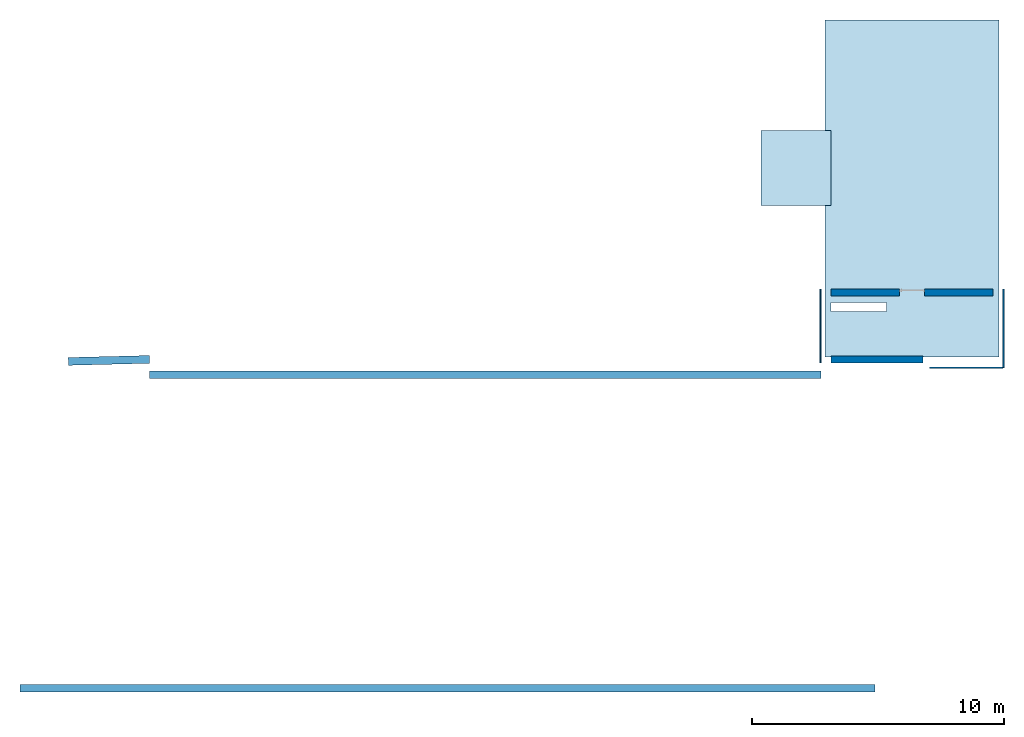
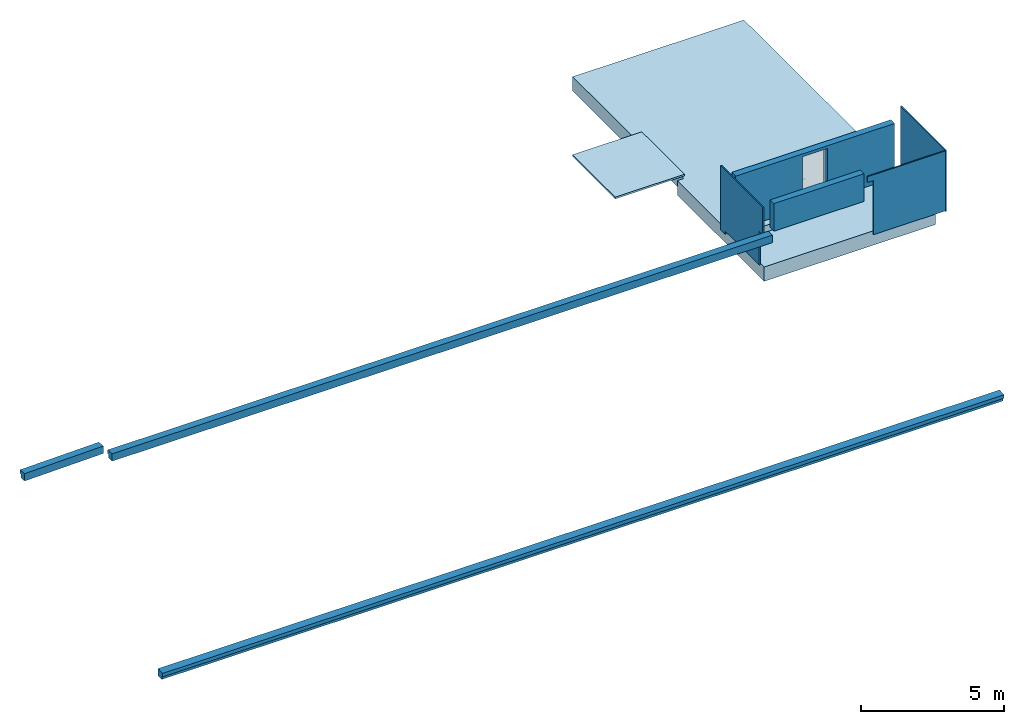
# One storey, part 1 of 2: 8 walls, 2 slabs, 3 openings, 2 elements without a shape of their own.
"""IFC2X3 building model written with IfcOpenShell, lengths in millimetres."""

import ifcopenshell
import ifcopenshell.guid

model = None  # the IFC model being written
_history = None  # IfcOwnerHistory: only IFC2X3 demands one
_inside = {}  # id of a spatial element -> (the spatial element, [elements in it])
_under = {}  # id of a project, library or spatial element -> (it, [spatial elements below it])
_declared = {}  # id of a project -> (the project, [libraries it declares])
_typed = {}  # id of a type object -> (the type object, [elements of that type])
_made_of = {}  # id of a material, layer set ... -> (it, [elements and type objects made of it])


def new_model(schema):
    """Start an empty IFC model of exactly this schema.

    Asked for "IFC4X3", IfcOpenShell would pick the latest addendum, in which some entities
    have other attributes; the version numbers below select the first issue.
    IFC2X3 requires an IfcOwnerHistory on every rooted entity: one is made here for all.
    """
    global model, _history
    if schema == "IFC4X3":
        model = ifcopenshell.file(schema_version=(4, 3, 0, 0))
    else:
        model = ifcopenshell.file(schema=schema)
    _inside.clear()
    _under.clear()
    _declared.clear()
    _typed.clear()
    _made_of.clear()
    _history = None
    if model.schema == "IFC2X3":
        org = make("IfcOrganization", Name="unknown")
        user = make(
            "IfcPersonAndOrganization",
            ThePerson=make("IfcPerson", FamilyName="unknown"),
            TheOrganization=org,
        )
        app = make(
            "IfcApplication",
            ApplicationDeveloper=org,
            Version="unknown",
            ApplicationFullName="unknown",
            ApplicationIdentifier="unknown",
        )
        _history = make(
            "IfcOwnerHistory",
            OwningUser=user,
            OwningApplication=app,
            ChangeAction="ADDED",
            CreationDate=0,
        )
    return model


def make(cls, **values):
    """One entity of the class cls with the attributes given. An attribute that is None is left unset."""
    return model.create_entity(
        cls, **{name: value for name, value in values.items() if value is not None}
    )


def entity(cls, *values):
    """Any entity or typed value of the class cls, its attributes in the order of the schema. None: left unset."""
    e = model.create_entity(cls)
    for i, value in enumerate(values):
        if value is not None:
            e[i] = value
    return e


def rooted(cls, **values):
    """An entity with a GlobalId (a new one), such as an element, a storey or a relation."""
    return make(cls, GlobalId=ifcopenshell.guid.new(), OwnerHistory=_history, **values)


def si_unit(unit_type, name, prefix=None):
    """IfcSIUnit, for example si_unit("LENGTHUNIT", "METRE", prefix="MILLI")."""
    return make("IfcSIUnit", UnitType=unit_type, Prefix=prefix, Name=name)


def converted_unit(unit_type, name, factor, base, dimensions=None, offset=None):
    """IfcConversionBasedUnit, such as the inch: factor (a typed value) times the base unit."""
    return make(
        "IfcConversionBasedUnit"
        if offset is None
        else "IfcConversionBasedUnitWithOffset",
        ConversionOffset=offset,
        Dimensions=None
        if dimensions is None
        else entity("IfcDimensionalExponents", *dimensions),
        UnitType=unit_type,
        Name=name,
        ConversionFactor=make(
            "IfcMeasureWithUnit", ValueComponent=factor, UnitComponent=base
        ),
    )


def derived_unit(unit_type, elements):
    """IfcDerivedUnit: a product of units, each with its exponent."""
    return make(
        "IfcDerivedUnit",
        Elements=[
            make("IfcDerivedUnitElement", Unit=unit, Exponent=power)
            for unit, power in elements
        ],
        UnitType=unit_type,
    )


def assignment(units):
    """IfcUnitAssignment: the units of a project."""
    return None if units is None else make("IfcUnitAssignment", Units=units)


def point(xyz):
    """IfcCartesianPoint."""
    return None if xyz is None else make("IfcCartesianPoint", Coordinates=xyz)


def direction(xyz):
    """IfcDirection."""
    return None if xyz is None else make("IfcDirection", DirectionRatios=xyz)


def frame(location, z_axis=None, x_axis=None):
    """IfcAxis2Placement3D, a coordinate frame: its origin and axes. An axis left out is left unset."""
    return make(
        "IfcAxis2Placement3D",
        Location=point(location),
        Axis=direction(z_axis),
        RefDirection=direction(x_axis),
    )


def frame_2d(location, x_axis=None):
    """IfcAxis2Placement2D, a coordinate frame in the plane: its origin and x axis."""
    return make(
        "IfcAxis2Placement2D", Location=point(location), RefDirection=direction(x_axis)
    )


def origin():
    """The frame at (0, 0, 0) with its axes left unset."""
    return frame((0.0, 0.0, 0.0))


def place(relative_to, where):
    """IfcLocalPlacement: puts the frame where relative to a parent placement (None: the world)."""
    return make(
        "IfcLocalPlacement", PlacementRelTo=relative_to, RelativePlacement=where
    )


def context(
    kind, dimensions, precision=None, world=None, true_north=None, identifier=None
):
    """IfcGeometricRepresentationContext, for example the 3D "Model" context."""
    return make(
        "IfcGeometricRepresentationContext",
        ContextIdentifier=identifier,
        ContextType=kind,
        CoordinateSpaceDimension=dimensions,
        Precision=precision,
        WorldCoordinateSystem=world,
        TrueNorth=true_north,
    )


def subcontext(parent, identifier, kind, view, scale=None):
    """IfcGeometricRepresentationSubContext, for example "Body" below "Model"."""
    return make(
        "IfcGeometricRepresentationSubContext",
        ContextIdentifier=identifier,
        ContextType=kind,
        ParentContext=parent,
        TargetScale=scale,
        TargetView=view,
    )


def project(units=None, contexts=None):
    """IfcProject with its units and contexts."""
    return rooted(
        "IfcProject",
        Name="project",
        RepresentationContexts=contexts,
        UnitsInContext=assignment(units),
    )


def spatial(cls, under=None, at=None, **own):
    """A site, building, storey or space (cls), placed at a placement, below another one or the project."""
    s = rooted(cls, ObjectPlacement=at, **own)
    if under is not None:
        _under.setdefault(under.id(), (under, []))[1].append(s)
    return s


def polyline(points):
    """IfcPolyline through the points."""
    return make("IfcPolyline", Points=[point(p) for p in points])


def profile(cls, at=None, kind="AREA", **sizes):
    """A parametric profile (cls). Its sizes go by their IFC names, for example OverallWidth=200.0."""
    return make(cls, ProfileType=kind, Position=at, **sizes)


def rectangle(**sizes):
    """IfcRectangleProfileDef."""
    return profile("IfcRectangleProfileDef", **sizes)


def outline(outer, holes=None, kind="AREA"):
    """IfcArbitraryClosedProfileDef: a profile drawn as a closed curve; with holes, ...WithVoids."""
    if holes is None:
        return make("IfcArbitraryClosedProfileDef", ProfileType=kind, OuterCurve=outer)
    return make(
        "IfcArbitraryProfileDefWithVoids",
        ProfileType=kind,
        OuterCurve=outer,
        InnerCurves=holes,
    )


def extrude(swept, where, along, depth):
    """IfcExtrudedAreaSolid: the profile swept, set in the frame where, extruded along a direction by depth."""
    return make(
        "IfcExtrudedAreaSolid",
        SweptArea=swept,
        Position=where,
        ExtrudedDirection=direction(along),
        Depth=depth,
    )


def faces_of(points, faces, orient=None, outer=None):
    """IfcFace entities. A face is a list of loops; a loop is a list of indices into points, from 0.

    orient and outer hold one flag for each loop. By default every Orientation is true, the
    first loop of a face is its IfcFaceOuterBound and the others are IfcFaceBound.
    """
    made = []
    for i, loops in enumerate(faces):
        bounds = []
        for j, loop in enumerate(loops):
            is_outer = j == 0 if outer is None else outer[i][j]
            bounds.append(
                make(
                    "IfcFaceOuterBound" if is_outer else "IfcFaceBound",
                    Bound=make("IfcPolyLoop", Polygon=[points[k] for k in loop]),
                    Orientation=True if orient is None else orient[i][j],
                )
            )
        made.append(make("IfcFace", Bounds=bounds))
    return made


def faceted_brep(points, faces, orient=None, outer=None, voids=None):
    """IfcFacetedBrep: a solid bounded by flat faces; with voids (closed shells), ...WithVoids."""
    shared = [point(p) for p in points]
    hull = make("IfcClosedShell", CfsFaces=faces_of(shared, faces, orient, outer))
    if voids is None:
        return make("IfcFacetedBrep", Outer=hull)
    return make(
        "IfcFacetedBrepWithVoids",
        Outer=hull,
        Voids=[
            make(cls, CfsFaces=faces_of(shared, fs, o, b)) for cls, fs, o, b in voids
        ],
    )


def shape(context_of_items, identifier, shape_type, items):
    """IfcShapeRepresentation: the items that make up one representation, for example the "Body"."""
    return make(
        "IfcShapeRepresentation",
        ContextOfItems=context_of_items,
        RepresentationIdentifier=identifier,
        RepresentationType=shape_type,
        Items=items,
    )


def material(Name=None, Category=None):
    """IfcMaterial."""
    return make("IfcMaterial", Name=Name, Category=Category)


def layer(
    of_material, thickness, ventilated=None, Name=None, Category=None, Priority=None
):
    """IfcMaterialLayer: one layer of a wall or slab, of a material (None: an air gap)."""
    return make(
        "IfcMaterialLayer",
        Material=of_material,
        LayerThickness=thickness,
        IsVentilated=ventilated,
        Name=Name,
        Category=Category,
        Priority=Priority,
    )


def layer_set(layers, Name=None):
    """IfcMaterialLayerSet."""
    return make("IfcMaterialLayerSet", MaterialLayers=layers, LayerSetName=Name)


def layer_usage(for_layer_set, set_direction, sense, offset, extent=None):
    """IfcMaterialLayerSetUsage: how a layer set lies in its element."""
    return make(
        "IfcMaterialLayerSetUsage",
        ForLayerSet=for_layer_set,
        LayerSetDirection=set_direction,
        DirectionSense=sense,
        OffsetFromReferenceLine=offset,
        ReferenceExtent=extent,
    )


def made_of(thing, what):
    """Note that an element or type object is made of a material, layer set ...; save() writes the relation."""
    if what is not None:
        _made_of.setdefault(what.id(), (what, []))[1].append(thing)
    return thing


def type_object(cls, material=None, **own):
    """A type object (cls), such as IfcWallType, which elements share."""
    return made_of(rooted(cls, **own), material)


def element(
    cls,
    number,
    at=None,
    inside=None,
    cuts=None,
    type_object=None,
    material=None,
    context=None,
    identifier="Body",
    shape_type=None,
    held_by="IfcProductDefinitionShape",
    body=None,
    shapes=None,
    **own,
):
    """One element of the class cls, such as IfcWall. Its Tag is "e" and its number.

    at: its placement. inside: the storey or other place that contains it. cuts: it is an
    opening in that element (IfcRelVoidsElement). A single representation is given by context,
    identifier, shape_type and body (its items); several are given by shapes. held_by: the class
    of the entity that holds the representations. save() writes the other relations.
    """
    e = rooted(cls, Tag="e%d" % number, ObjectPlacement=at, **own)
    if body is not None:
        shapes = [shape(context, identifier, shape_type, body)]
    if shapes is not None:
        e.Representation = make(held_by, Representations=shapes)
    if inside is not None:
        _inside.setdefault(inside.id(), (inside, []))[1].append(e)
    if cuts is not None:
        rooted(
            "IfcRelVoidsElement", RelatingBuildingElement=cuts, RelatedOpeningElement=e
        )
    if type_object is not None:
        _typed.setdefault(type_object.id(), (type_object, []))[1].append(e)
    return made_of(e, material)


def aggregate(whole, parts):
    """IfcRelAggregates: a whole, such as a stair, and the parts it consists of."""
    return rooted("IfcRelAggregates", RelatingObject=whole, RelatedObjects=parts)


def save(model, path):
    """Write the relations noted so far, then the file.

    IfcRelAggregates (storeys below a building ...), IfcRelContainedInSpatialStructure (elements
    in a storey), IfcRelDefinesByType, IfcRelAssociatesMaterial and IfcRelDeclares: one each for
    every whole, place, type object, material and project.
    """
    for whole, parts in _under.values():
        aggregate(whole, parts)
    for where, things in _inside.values():
        rooted(
            "IfcRelContainedInSpatialStructure",
            RelatedElements=things,
            RelatingStructure=where,
        )
    for kind, things in _typed.values():
        rooted("IfcRelDefinesByType", RelatedObjects=things, RelatingType=kind)
    for what, things in _made_of.values():
        rooted("IfcRelAssociatesMaterial", RelatedObjects=things, RelatingMaterial=what)
    for by, libraries in _declared.values():
        rooted("IfcRelDeclares", RelatingContext=by, RelatedDefinitions=libraries)
    model.write(path)


model = new_model("IFC2X3")

# Units and contexts
model_context = context("Model", 3, precision=0.01, world=origin(), true_north=direction((6.12303176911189e-17, 1.0)))
body_context = subcontext(model_context, "Body", "Model", "MODEL_VIEW")
ifc_project = project(units=[si_unit("LENGTHUNIT", "METRE", prefix="MILLI"), si_unit("AREAUNIT", "SQUARE_METRE"), si_unit("VOLUMEUNIT", "CUBIC_METRE"), converted_unit("PLANEANGLEUNIT", "DEGREE", entity("IfcRatioMeasure", 0.0174532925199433), si_unit("PLANEANGLEUNIT", "RADIAN"), dimensions=[0, 0, 0, 0, 0, 0, 0]), si_unit("MASSUNIT", "GRAM", prefix="KILO"), derived_unit("MASSDENSITYUNIT", [(si_unit("MASSUNIT", "GRAM", prefix="KILO"), 1), (si_unit("LENGTHUNIT", "METRE"), -3)]), si_unit("TIMEUNIT", "SECOND"), si_unit("FREQUENCYUNIT", "HERTZ"), si_unit("THERMODYNAMICTEMPERATUREUNIT", "DEGREE_CELSIUS"), derived_unit("THERMALTRANSMITTANCEUNIT", [(si_unit("MASSUNIT", "GRAM", prefix="KILO"), 1), (si_unit("THERMODYNAMICTEMPERATUREUNIT", "KELVIN"), -1), (si_unit("TIMEUNIT", "SECOND"), -3)]), derived_unit("VOLUMETRICFLOWRATEUNIT", [(si_unit("LENGTHUNIT", "METRE"), 3), (si_unit("TIMEUNIT", "SECOND"), -1)]), si_unit("ELECTRICCURRENTUNIT", "AMPERE"), si_unit("ELECTRICVOLTAGEUNIT", "VOLT"), si_unit("POWERUNIT", "WATT"), si_unit("FORCEUNIT", "NEWTON", prefix="KILO"), si_unit("ILLUMINANCEUNIT", "LUX"), si_unit("LUMINOUSFLUXUNIT", "LUMEN"), si_unit("LUMINOUSINTENSITYUNIT", "CANDELA"), derived_unit("USERDEFINED", [(si_unit("MASSUNIT", "GRAM", prefix="KILO"), -1), (si_unit("LENGTHUNIT", "METRE"), -2), (si_unit("TIMEUNIT", "SECOND"), 3), (si_unit("LUMINOUSFLUXUNIT", "LUMEN"), 1)]), derived_unit("LINEARVELOCITYUNIT", [(si_unit("LENGTHUNIT", "METRE"), 1), (si_unit("TIMEUNIT", "SECOND"), -1)]), si_unit("PRESSUREUNIT", "PASCAL"), derived_unit("USERDEFINED", [(si_unit("LENGTHUNIT", "METRE"), -2), (si_unit("MASSUNIT", "GRAM", prefix="KILO"), 1), (si_unit("TIMEUNIT", "SECOND"), -2)])], contexts=[model_context])

# Site, building, storey
site_placement = place(None, frame((-151.875543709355, 2715.0, 0.0)))
site = spatial("IfcSite", under=ifc_project, at=site_placement, Name="Surface", CompositionType="ELEMENT")
building_placement = place(site_placement, origin())
building = spatial("IfcBuilding", under=site, at=building_placement, CompositionType="ELEMENT")
storey_placement = place(building_placement, frame((0.0, 0.0, 11805.0)))
storey = spatial("IfcBuildingStorey", under=building, at=storey_placement, Name="uus Katus", CompositionType="ELEMENT", Elevation=11805.0000000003)

# Roof, slab, opening
roof_1_placement = place(storey_placement, origin())
roof_1 = element("IfcRoof", 1, at=roof_1_placement, inside=storey, Name="Basic Roof:KL-2\u001f.1_uus katus", ObjectType="Basic Roof:KL-2\u001f.1_uus katus", ShapeType="NOTDEFINED")
slab_1_placement = place(storey_placement, origin())
slab_1 = element("IfcSlab", 2, at=slab_1_placement, Name="Basic Roof:KL-2\u001f.1_uus katus:1", ObjectType="Basic Roof:KL-2\u001f.1_uus katus", PredefinedType="ROOF", context=body_context, shape_type="SweptSolid", body=[
    extrude(outline(polyline([(-6270.50001983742, -1789.0), (-1842.49999344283, -1789.0), (-1842.49999344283, -1532.0), (1026.50000655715, -1532.0), (1026.50000655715, -1789.0), (7086.50000672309, -1789.0), (7086.50000672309, 5110.0), (-6270.50001983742, 5110.0), (-6270.50001983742, -1789.0)])), frame((33533.6162682, 20296.5000067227, -755.0), z_axis=(0.0, 0.0, 1.0), x_axis=(0.0, -1.0, 0.0)), (0.0, 0.0, 1.0), 610.0),
])
opening_1_placement = place(storey_placement, origin())
element("IfcOpeningElement", 3, at=opening_1_placement, cuts=slab_1, Name="Basic Roof:KL-2\u001f.1_uus katus:1", ObjectType="Opening", context=body_context, shape_type="SweptSolid", body=[
    extrude(rectangle(XDim=2180.0, YDim=350.000000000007, at=frame_2d((-4.32009983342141e-12, 0.0), x_axis=(1.0, 0.0))), frame((33091.6162682, 15195.0, -755.0), z_axis=(0.0, 0.0, 1.0), x_axis=(-1.0, 0.0, 0.0)), (0.0, 0.0, 1.0), 610.0),
])
aggregate(roof_1, [slab_1])

# Roof, slab
roof_2_placement = place(storey_placement, frame((29212.6177671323, 19211.0, 0.0)))
roof_2 = element("IfcRoof", 4, at=roof_2_placement, inside=storey, Name="Basic Roof:lifti katus", ObjectType="Basic Roof:lifti katus", ShapeType="NOTDEFINED")
ifc_material_1 = material(Name="SW katusepaneel")
ifc_layer_1 = layer(ifc_material_1, 75.0)
ifc_layer_set_1 = layer_set([ifc_layer_1], Name="Basic Roof:lifti katus")
slab_2_placement = place(roof_2_placement, origin())
slab_2 = element("IfcSlab", 5, at=slab_2_placement, material=ifc_layer_set_1, Name="Basic Roof:lifti katus", ObjectType="Basic Roof:lifti katus", PredefinedType="ROOF", context=body_context, shape_type="SweptSolid", body=[
    extrude(rectangle(XDim=2788.99850106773, YDim=2978.59954571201, at=frame_2d((0.0, 2.1600499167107e-12), x_axis=(1.0, 0.0))), frame((1394.49925053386, 1489.299772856, 0.0)), (0.0, 0.0, 1.0), 75.0000000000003),
])
aggregate(roof_2, [slab_2])

# Wall, opening
ifc_material_2 = material(Name="Steel/Aluminium")
wall_type_1 = type_object("IfcWallType", Name="fassaad3:fassaad3", PredefinedType="NOTDEFINED", material=ifc_material_2)
wall_1_placement = place(storey_placement, frame((38795.6162681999, 12790.039110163, 0.0), z_axis=(0.0, 0.0, 1.0), x_axis=(0.0, 1.0, 0.0)))
wall_1 = element("IfcWall", 6, at=wall_1_placement, inside=storey, type_object=wall_type_1, material=ifc_material_2, Name="fassaad3:fassaad3", ObjectType="fassaad3:fassaad3", context=body_context, shape_type="SweptSolid", body=[
    extrude(rectangle(XDim=50.0000000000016, YDim=3116.0, at=frame_2d((0.0, 1.13686837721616e-12), x_axis=(1.0, 0.0))), frame((1558.0, -25.0, 0.0), z_axis=(0.0, 0.0, 1.0), x_axis=(0.0, 1.0, 0.0)), (0.0, 0.0, 1.0), 2599.99998531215),
])
opening_2_placement = place(storey_placement, frame((38795.6162681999, 12790.039110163, 0.0), z_axis=(0.0, 0.0, 1.0), x_axis=(0.0, 1.0, 0.0)))
element("IfcOpeningElement", 7, at=opening_2_placement, cuts=wall_1, Name="fassaad3:fassaad3:1", ObjectType="Opening", context=body_context, shape_type="SweptSolid", body=[
    extrude(rectangle(XDim=1000.0, YDim=400.0, at=frame_2d((2.17426077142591e-12, -1.08002495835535e-12), x_axis=(0.0, 1.0))), frame((925.0, 0.0, 1064.99998531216), z_axis=(0.0, -1.0, 0.0), x_axis=(-1.0, 0.0, 0.0)), (0.0, 0.0, 1.0), 50.0000000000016),
])

ifc_material_3 = material(Name="External face timepruun h=1100mm")
ifc_layer_2 = layer(ifc_material_3, 54.0)
ifc_material_4 = material(Name="Core Mineral wool Mineral Wool h=1100mm")
ifc_layer_3 = layer(ifc_material_4, 200.0)
ifc_material_5 = material(Name="__Kips GKB_niiskuskindel")
ifc_layer_4 = layer(ifc_material_5, 12.0)
ifc_layer_set_2 = layer_set([ifc_layer_2, ifc_layer_3, ifc_layer_4], Name="Basic Wall:VS-3_vent.ruumide ja ladude välissein")
ifc_layer_usage_1 = layer_usage(ifc_layer_set_2, "AXIS2", "NEGATIVE", 133.0)
wall_type_2 = type_object("IfcWallType", Name="Basic Wall:VS-3_vent.ruumide ja ladude välissein", PredefinedType="STANDARD", material=ifc_layer_set_2)
wall_2_placement = place(storey_placement, frame((32001.6162682, 15773.039110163, -155.0)))
wall_2 = element("IfcWallStandardCase", 8, at=wall_2_placement, inside=storey, type_object=wall_type_2, material=ifc_layer_usage_1, Name="Basic Wall:VS-3_vent.ruumide ja ladude välissein", ObjectType="Basic Wall:VS-3_vent.ruumide ja ladude välissein", context=body_context, shape_type="SweptSolid", body=[
    extrude(rectangle(XDim=6404.99999999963, YDim=266.0, at=frame_2d((3202.49999999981, 0.0), x_axis=(-1.0, 0.0))), origin(), (0.0, 0.0, 1.0), 2315.0),
])
opening_3_placement = place(wall_2_placement, frame((2695.0, -133.0, 0.0)))
element("IfcOpeningElement", 9, at=opening_3_placement, cuts=wall_2, Name="Ühepoolsed:VU-04.:1", ObjectType="Opening", context=body_context, shape_type="SweptSolid", body=[
    extrude(rectangle(XDim=2199.99999999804, YDim=1000.0, at=frame_2d((1099.99999999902, 500.0), x_axis=(1.0, 0.0))), frame((0.0, 0.0, 0.0), z_axis=(0.0, 1.0, 0.0), x_axis=(0.0, 0.0, 1.0)), (0.0, 0.0, 1.0), 266.0),
])

# Walls
ifc_layer_usage_2 = layer_usage(ifc_layer_set_2, "AXIS2", "NEGATIVE", 133.0)
wall_3_placement = place(storey_placement, frame((35636.6162682, 13113.0, 1426.36961755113), z_axis=(0.0, 0.0, 1.0), x_axis=(-1.0, 0.0, 0.0)))
element("IfcWallStandardCase", 10, at=wall_3_placement, inside=storey, type_object=wall_type_2, material=ifc_layer_usage_2, Name="Basic Wall:VS-3_vent.ruumide ja ladude välissein", ObjectType="Basic Wall:VS-3_vent.ruumide ja ladude välissein", context=body_context, shape_type="SweptSolid", body=[
    extrude(rectangle(XDim=3635.00000000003, YDim=266.0, at=frame_2d((1817.50000000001, 0.0), x_axis=(-1.0, 0.0))), origin(), (0.0, 0.0, 1.0), 1173.63038244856),
])
ifc_material_6 = material(Name="Krohv")
wall_type_3 = type_object("IfcWallType", Name="RB_karniis:RB_karniis", PredefinedType="NOTDEFINED", material=ifc_material_6)
wall_4_placement = place(storey_placement, frame((-138.383731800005, -60.0953674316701, 1465.37840402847)))
element("IfcWall", 11, at=wall_4_placement, inside=storey, type_object=wall_type_3, material=ifc_material_6, Name="RB_karniis:RB_karniis", ObjectType="RB_karniis:RB_karniis", context=body_context, shape_type="Brep", body=[
    faceted_brep([(0.0, 60.0, 0.0), (0.0, 60.0, 150.0), (0.0, 0.0, 150.0), (0.0, 0.0, 296.355583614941), (0.0, 310.0, 316.185068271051), (0.0, 310.0, 0.0), (33880.0, 60.0, 0.0), (33880.0, 310.0, 0.0), (33880.0, 310.0, 316.185068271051), (33880.0, 0.0, 296.355583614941), (33880.0, 0.0, 150.0), (33880.0, 60.0, 150.0)], [[[0, 1, 2, 3, 4, 5]], [[6, 7, 8, 9, 10, 11]], [[1, 0, 6, 11]], [[2, 1, 11, 10]], [[3, 2, 10, 9]], [[4, 3, 9, 8]], [[5, 4, 8, 7]], [[0, 5, 7, 6]]]),
])
wall_type_4 = type_object("IfcWallType", Name="RB_karniis1:RB_karniis", PredefinedType="NOTDEFINED", material=ifc_material_6)
wall_5_placement = place(storey_placement, frame((5000.07439884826, 12359.9592501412, 1464.7413498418)))
element("IfcWall", 12, at=wall_5_placement, inside=storey, type_object=wall_type_4, material=ifc_material_6, Name="RB_karniis1:RB_karniis", ObjectType="RB_karniis1:RB_karniis", context=body_context, shape_type="Brep", body=[
    faceted_brep([(0.0, 250.0, 0.0), (0.0, 0.0, 0.0), (0.0, 0.0, 316.185068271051), (0.0, 310.0, 296.355583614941), (0.0, 310.0, 150.0), (0.0, 250.0, 150.0), (26592.5418693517, 250.0, 0.0), (26592.5418693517, 250.0, 150.0), (26592.5418693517, 310.0, 150.0), (26592.5418693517, 310.0, 296.355583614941), (26592.5418693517, 0.0, 316.185068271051), (26592.5418693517, 0.0, 0.0)], [[[0, 1, 2, 3, 4, 5]], [[6, 7, 8, 9, 10, 11]], [[0, 5, 7, 6]], [[5, 4, 8, 7]], [[4, 3, 9, 8]], [[3, 2, 10, 9]], [[2, 1, 11, 10]], [[1, 0, 6, 11]]]),
])
wall_type_5 = type_object("IfcWallType", Name="RB_karniis2:RB_karniis", PredefinedType="NOTDEFINED", material=ifc_material_6)
wall_6_placement = place(storey_placement, frame((1771.1234251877, 12885.0749879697, 1428.9412000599)))
element("IfcWall", 13, at=wall_6_placement, inside=storey, type_object=wall_type_5, material=ifc_material_6, Name="RB_karniis2:RB_karniis", ObjectType="RB_karniis2:RB_karniis", context=body_context, shape_type="Brep", body=[
    faceted_brep([(1.50726465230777, 249.921103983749, 0.0), (7.78753403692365, 0.0, 0.0), (7.78753403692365, 0.0, 316.185068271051), (0.0, 309.90216893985, 296.355583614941), (0.0, 309.90216893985, 150.0), (1.50726465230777, 249.921103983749, 150.0), (3222.67070427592, 330.865745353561, 0.0), (3222.67070427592, 330.865745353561, 150.0), (3221.16343962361, 390.846810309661, 150.0), (3221.16343962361, 390.846810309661, 296.355583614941), (3228.95097366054, 80.9446413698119, 316.185068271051), (3228.95097366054, 80.9446413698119, 0.0)], [[[0, 1, 2, 3, 4, 5]], [[6, 7, 8, 9, 10, 11]], [[0, 5, 7, 6]], [[5, 4, 8, 7]], [[4, 3, 9, 8]], [[3, 2, 10, 9]], [[2, 1, 11, 10]], [[1, 0, 6, 11]]]),
])
wall_type_6 = type_object("IfcWallType", Name="fassaad4.1:fassaad4.1", PredefinedType="NOTDEFINED", material=ifc_material_2)
wall_7_placement = place(storey_placement, frame((35652.6162682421, 12761.0, 50.0930709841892)))
element("IfcWall", 14, at=wall_7_placement, inside=storey, type_object=wall_type_6, material=ifc_material_2, Name="fassaad4.1:fassaad4.1", ObjectType="fassaad4.1:fassaad4.1", context=body_context, shape_type="Brep", body=[
    faceted_brep([(243.0, 0.0, 2305.0), (243.0, 0.0, 0.0), (3143.0, 0.0, 0.0), (3143.0, 0.0, 2550.0), (0.0, 0.0, 2550.0), (0.0, 0.0, 2305.0), (243.0, 50.0, 2305.0), (243.0, 50.0, 0.0), (3143.0, 50.0, 0.0), (3143.0, 50.0, 2550.0), (0.0, 50.0, 2305.0), (0.0, 50.0, 2550.0)], [[[0, 1, 2, 3, 4, 5]], [[1, 0, 6, 7]], [[2, 1, 7, 8]], [[3, 2, 8, 9]], [[6, 10, 11, 9, 8, 7]], [[4, 3, 9, 11]], [[5, 4, 11, 10]], [[0, 5, 10, 6]]]),
])
wall_type_7 = type_object("IfcWallType", Name="fassaad1.4:fassaad 2", PredefinedType="NOTDEFINED", material=ifc_material_2)
wall_8_placement = place(storey_placement, frame((31552.6162682, 12980.7101603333, -145.0), z_axis=(0.0, 0.0, 1.0), x_axis=(0.0, 1.0, 0.0)))
element("IfcWall", 15, at=wall_8_placement, inside=storey, type_object=wall_type_7, material=ifc_material_2, Name="fassaad1.4:fassaad 2", ObjectType="fassaad1.4:fassaad 2", context=body_context, shape_type="Brep", body=[
    faceted_brep([(2629.28983966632, 0.0, 145.0), (240.0, 0.0, 145.0), (240.0, 0.0, 1571.0), (0.0, 0.0, 1571.0), (0.0, 0.0, 2745.0), (2925.28983966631, 0.0, 2745.0), (2925.28983966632, 0.0, 0.0), (2629.28983966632, 0.0, 0.0), (2629.28983966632, -50.0, 145.0), (240.0, -50.0, 145.0), (240.0, -50.0, 1571.0), (2629.28983966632, -50.0, 0.0), (2925.28983966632, -50.0, 0.0), (2925.28983966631, -50.0, 2745.0), (0.0, -50.0, 2745.0), (0.0, -50.0, 1571.0)], [[[0, 1, 2, 3, 4, 5, 6, 7]], [[1, 0, 8, 9]], [[2, 1, 9, 10]], [[8, 11, 12, 13, 14, 15, 10, 9]], [[6, 5, 13, 12]], [[7, 6, 12, 11]], [[0, 7, 11, 8]], [[4, 3, 15, 14]], [[5, 4, 14, 13]], [[3, 2, 10, 15]]]),
])

save(model, "model.ifc")
